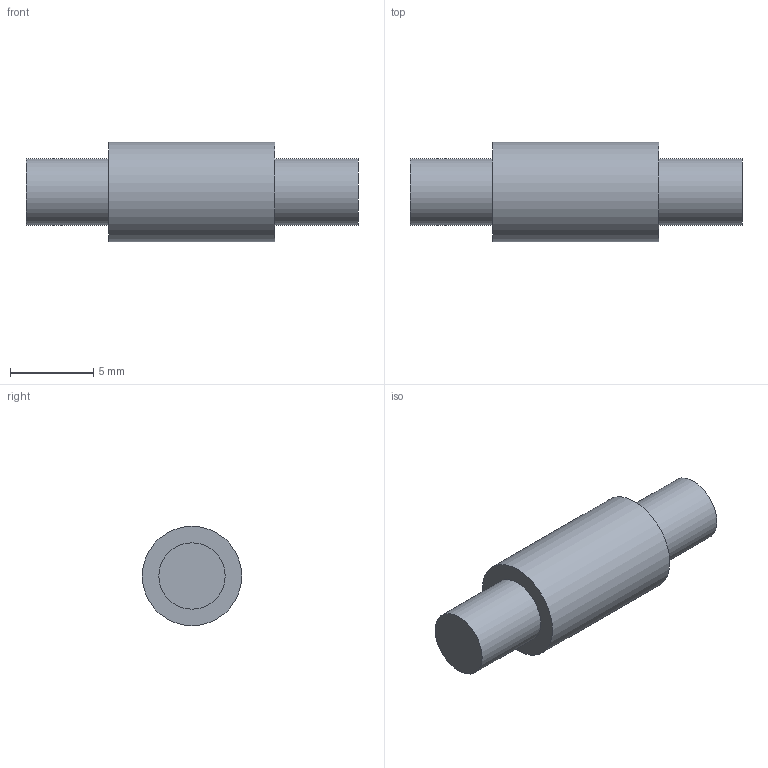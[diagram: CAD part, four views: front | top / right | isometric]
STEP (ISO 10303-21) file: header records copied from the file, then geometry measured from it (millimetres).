
FILE_DESCRIPTION(/* description */ (''),/* implementation_level */ '2;1');
FILE_NAME(/* name */ 'Tensioner Shaft v1.step',/* time_stamp */ '2025-10-21T12:11:21-07:00',/* author */ (''),/* organization */ (''),/* preprocessor_version */ 'ST-DEVELOPER v20.1',/* originating_system */ 'Autodesk Translation Framework v14.17.0.0',/* authorisation */ '');
FILE_SCHEMA (('AUTOMOTIVE_DESIGN { 1 0 10303 214 3 1 1 }'));
Length unit declared in the file: millimetre
Products named in the file (1): Tensioner Shaft
Bounding box: 20 x 5.99 x 5.99 mm (x, y, z)
Volume: 407.5 mm3; surface area: 370.2 mm2
Topology: 1 solids, 1 shells, 7 faces, 9 edges, 6 vertices
Faces by surface type: plane 4, cylinder 3
Full cylindrical faces by diameter (mm): 4 x2, 5.99 x1
Entity records: 182 total; most frequent: DIRECTION 31, CARTESIAN_POINT 23, ORIENTED_EDGE 18, AXIS2_PLACEMENT_3D 14, EDGE_LOOP 9, EDGE_CURVE 9, FACE_OUTER_BOUND 7, ADVANCED_FACE 7
